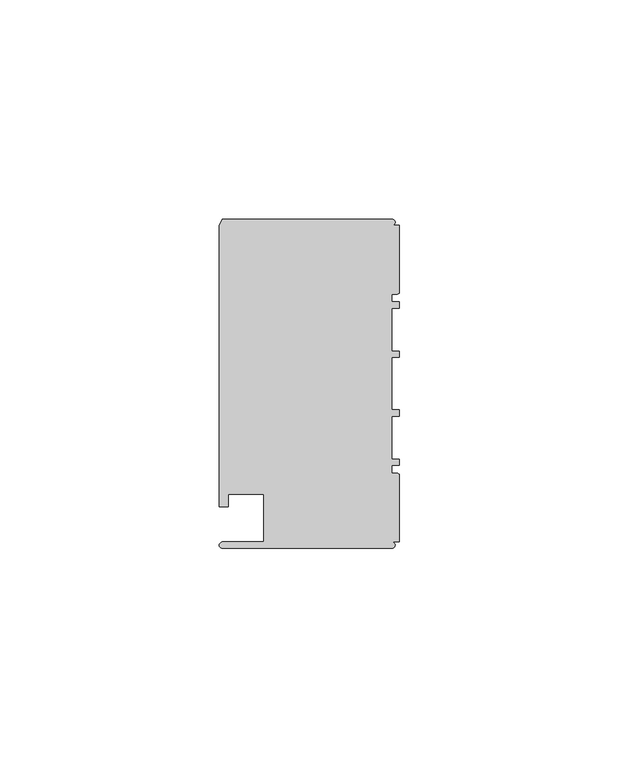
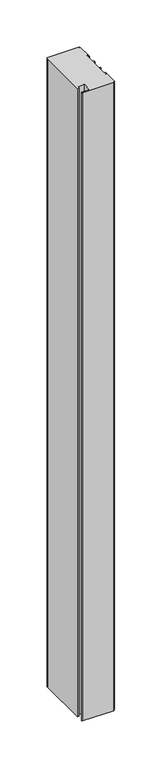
"""IFC4 building model written with IfcOpenShell, lengths in millimetres: member geometry, Прямоугольный импост : 1-AMG-1-Профиль 40Х75 Низ Л."""

from ifc_helpers import new_model, si_unit, point, frame, frame_2d, origin, place, context, project, spatial, polyline, circle_curve, trimmed, segment, composite_curve, outline, extrude, source, transform, mapped, element, save


def member_158f16f8(model_context):
    return source(origin(), model_context, "Body", "SweptSolid", [
        extrude(outline(composite_curve([segment(polyline([(-1.7, -37.5), (-40.4, -37.5)]), True, "CONTINUOUS"), segment(trimmed(circle_curve(frame_2d((-40.4, -36.8)), 0.7), [point((-40.4, -37.5))], [point((-40.4, -36.1))], False, "CARTESIAN"), True, "CONTINUOUS"), segment(polyline([(-40.4, -36.1), (-31.0, -36.1), (-31.0, -25.25), (-39.0, -25.25), (-39.0, -28.1), (-41.1, -28.1), (-41.1, 35.6)]), True, "CONTINUOUS"), segment(trimmed(circle_curve(frame_2d((-38.1714286, 35.6)), 2.9285714), [point((-41.1, 35.6))], [point((-40.4, 37.5))], False, "CARTESIAN"), True, "CONTINUOUS"), segment(polyline([(-40.4, 37.5), (-1.7, 37.5)]), True, "CONTINUOUS"), segment(trimmed(circle_curve(frame_2d((-1.7, 36.8)), 0.7), [point((-1.7, 37.5))], [point((-1.7, 36.1))], False, "CARTESIAN"), True, "CONTINUOUS"), segment(polyline([(-1.7, 36.1), (0.0, 36.1), (0.0, 20.95)]), True, "CONTINUOUS"), segment(trimmed(circle_curve(frame_2d((-0.5, 20.95)), 0.5), [point((0.0, 20.95))], [point((-0.5, 20.45))], False, "CARTESIAN"), True, "CONTINUOUS"), segment(polyline([(-0.5, 20.45), (-1.8, 20.45), (-1.8, 18.65), (0.0, 18.65), (0.0, 17.25), (-1.8, 17.25), (-1.8, 7.4), (0.0, 7.4), (0.0, 6.0), (-1.8, 6.0), (-1.8, -6.0), (0.0, -6.0), (0.0, -7.4), (-1.8, -7.4), (-1.8, -17.25), (0.0, -17.25), (0.0, -18.65), (-1.8, -18.65), (-1.8, -20.45), (-0.5, -20.45)]), True, "CONTINUOUS"), segment(trimmed(circle_curve(frame_2d((-0.5, -20.95)), 0.5), [point((-0.5, -20.45))], [point((0.0, -20.95))], False, "CARTESIAN"), True, "CONTINUOUS"), segment(polyline([(0.0, -20.95), (0.0, -36.1), (-1.7, -36.1)]), True, "CONTINUOUS"), segment(trimmed(circle_curve(frame_2d((-1.7, -36.8)), 0.7), [point((-1.7, -36.1))], [point((-1.7, -37.5))], False, "CARTESIAN"), True, "CONTINUOUS")], self_intersect=False)), frame((0.0, 0.0, -817.7849139), z_axis=(0.0, 0.0, 1.0), x_axis=(1.0, 0.0, 0.0)), (0.0, 0.0, 1.0), 817.7849139),
    ])


if __name__ == "__main__":
    model = new_model("IFC4")
    model_context = context("Model", 3, world=origin())
    ifc_project = project(units=[si_unit("LENGTHUNIT", "METRE", prefix="MILLI")], contexts=[model_context])
    site = spatial("IfcSite", under=ifc_project)
    building = spatial("IfcBuilding", under=site)
    placement = place(None, origin())
    member_shape = member_158f16f8(model_context)
    element("IfcMember", 1, ObjectType="Прямоугольный импост : 1-AMG-1-Профиль 40Х75 Низ Л", at=placement, inside=building, context=model_context, shape_type="MappedRepresentation", body=[
        mapped(member_shape, transform((0.0, 0.0, 0.0), x_axis=(1.0, 0.0, 0.0), y_axis=(0.0, 1.0, 0.0), z_axis=(0.0, 0.0, 1.0))),
    ])
    save(model, "model.ifc")
